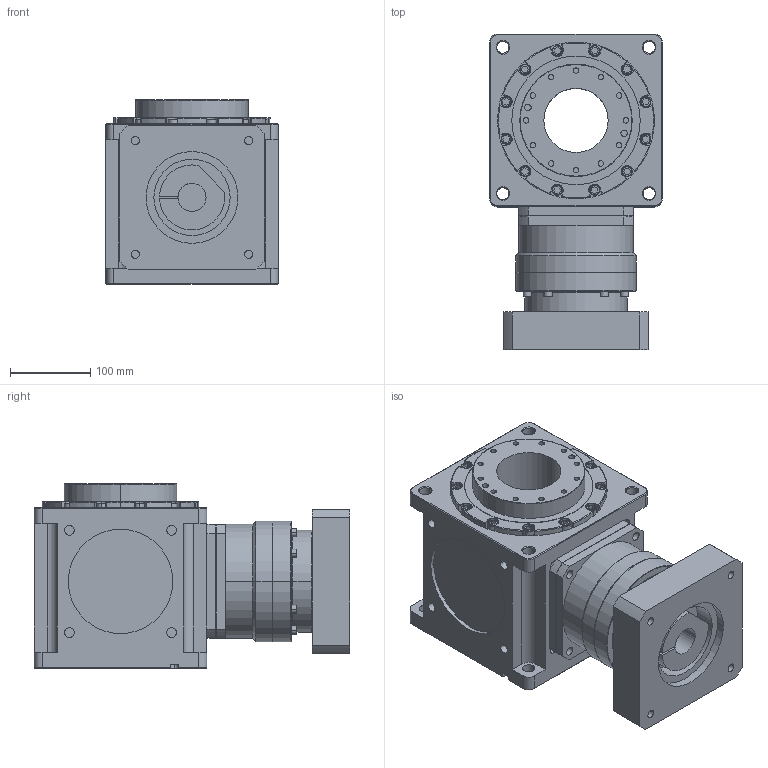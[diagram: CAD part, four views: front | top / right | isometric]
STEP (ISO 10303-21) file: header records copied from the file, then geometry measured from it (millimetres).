
FILE_DESCRIPTION (( 'STEP AP214' ), '1' );
FILE_NAME ('CCW215A-L1(6-20)-RF 35-114.3-200-M12.STEP', '2025-05-28T06:33:50', ( '微软用户' ), ( '微软中国' ), 'SwSTEP 2.0', 'SolidWorks 2024', '' );
FILE_SCHEMA (( 'AUTOMOTIVE_DESIGN' ));
Length unit declared in the file: millimetre
Products named in the file (4): CCW215A-L1(6-20)-RF 35-114.3-200-M12; CCW215A行星垫板; VRB-142-L1-S2-P1 35-114.3-200-M12; CCW215A-002-RF箱体
Assembly tree (3 placements, depth 2):
  CCW215A-L1(6-20)-RF 35-114.3-200-M12
    VRB-142-L1-S2-P1 35-114.3-200-M12
    CCW215A-002-RF箱体
    CCW215A行星垫板
Bounding box: 215 x 393 x 229.5 mm (x, y, z)
Volume: 11129948.3 mm3; surface area: 612004.4 mm2
Topology: 3 solids, 3 shells, 787 faces, 1893 edges, 1195 vertices
Faces by surface type: plane 335, cylinder 311, torus 65, cone 52, bspline 24
Entity records: 24048 total; most frequent: CARTESIAN_POINT 5022, DIRECTION 4195, ORIENTED_EDGE 3782, EDGE_CURVE 1891, AXIS2_PLACEMENT_3D 1602, VERTEX_POINT 1195, LINE 991, VECTOR 991
